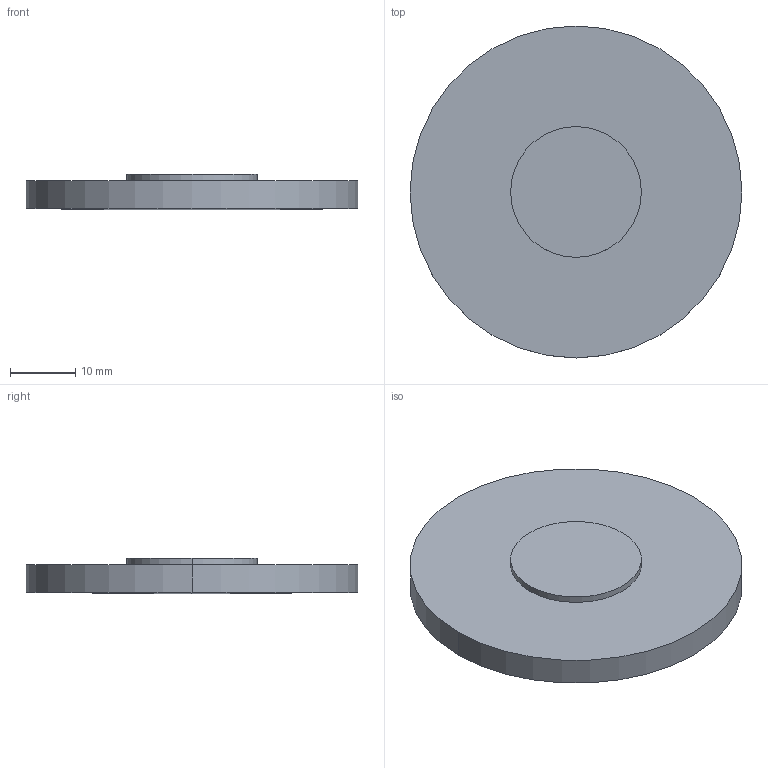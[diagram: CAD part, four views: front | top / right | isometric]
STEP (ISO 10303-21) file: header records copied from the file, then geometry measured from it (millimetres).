
FILE_DESCRIPTION(('STEP AP214'),'1');
FILE_NAME('LLZ-51-1M.STEP','2020-03-09T17:42:35',(' '),(' '),'Spatial InterOp 3D',' ',' ');
FILE_SCHEMA(('AUTOMOTIVE_DESIGN { 1 0 10303 214 1 1 1 1 }'));
Length unit declared in the file: millimetre
Products named in the file (1): 1
Bounding box: 50.8 x 50.8 x 5.5 mm (x, y, z)
Volume: 9203.4 mm3; surface area: 5426.7 mm2
Topology: 2 solids, 2 shells, 9 faces, 16 edges, 9 vertices
Faces by surface type: cylinder 4, plane 3, sphere 2
Entity records: 229 total; most frequent: DIRECTION 46, CARTESIAN_POINT 34, ORIENTED_EDGE 28, AXIS2_PLACEMENT_3D 21, EDGE_CURVE 14, CIRCLE 10, ADVANCED_FACE 9, FACE_OUTER_BOUND 9
